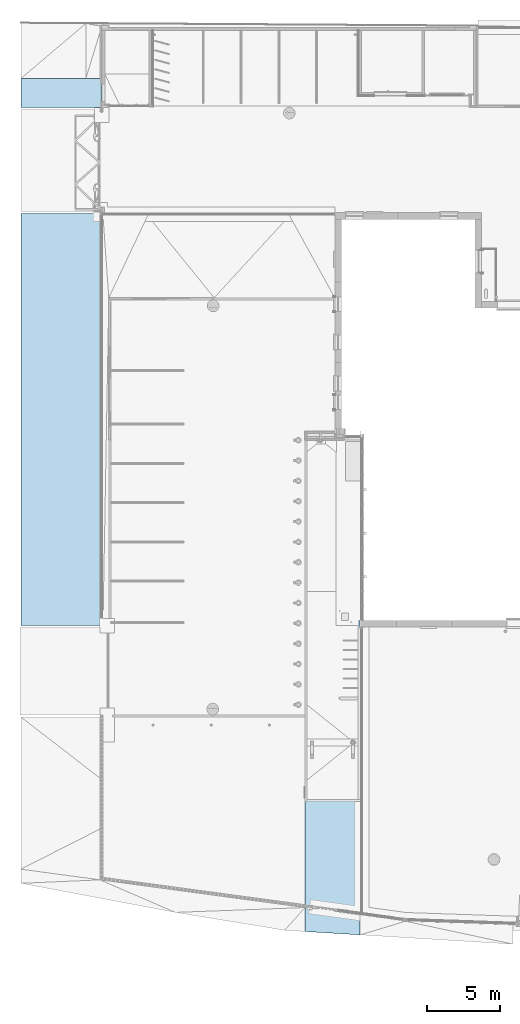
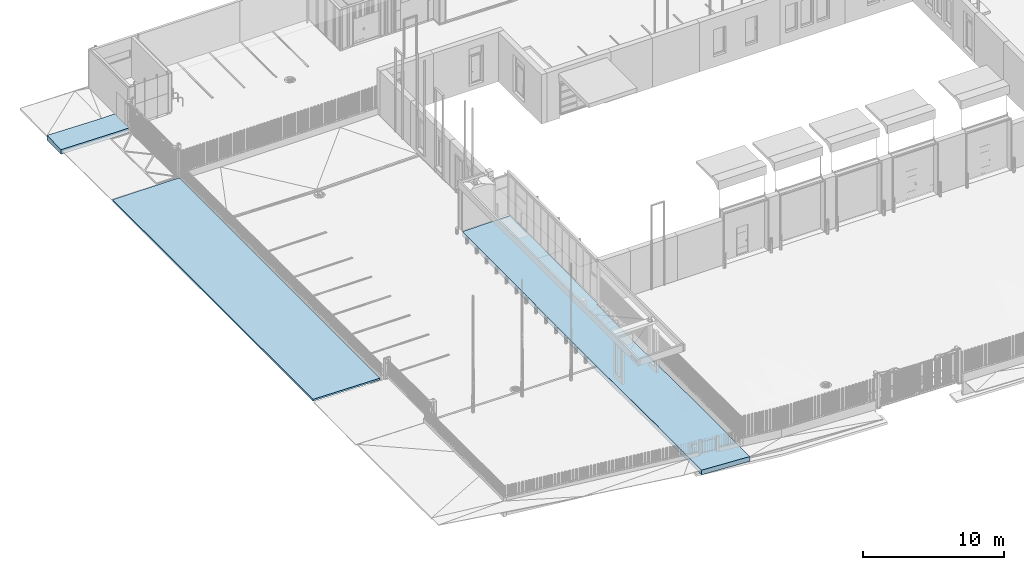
# One storey, part 56 of 77: 3 slabs.
"""IFC2X3 building model written with IfcOpenShell, lengths in millimetres."""

from ifc_helpers import new_model, entity, si_unit, converted_unit, derived_unit, direction, origin, place, context, subcontext, project, spatial, faceted_brep, material, material_list, element, save


model = new_model("IFC2X3")

# Units and contexts
model_context = context("Model", 3, precision=0.01, world=origin(), true_north=direction((6.12303176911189e-17, 1.0)))
body_context = subcontext(model_context, "Body", "Model", "MODEL_VIEW")
ifc_project = project(units=[si_unit("LENGTHUNIT", "METRE", prefix="MILLI"), si_unit("AREAUNIT", "SQUARE_METRE"), si_unit("VOLUMEUNIT", "CUBIC_METRE"), converted_unit("PLANEANGLEUNIT", "DEGREE", entity("IfcRatioMeasure", 0.0174532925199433), si_unit("PLANEANGLEUNIT", "RADIAN"), dimensions=[0, 0, 0, 0, 0, 0, 0]), si_unit("MASSUNIT", "GRAM", prefix="KILO"), derived_unit("MASSDENSITYUNIT", [(si_unit("MASSUNIT", "GRAM", prefix="KILO"), 1), (si_unit("LENGTHUNIT", "METRE"), -3)]), si_unit("TIMEUNIT", "SECOND"), si_unit("FREQUENCYUNIT", "HERTZ"), si_unit("THERMODYNAMICTEMPERATUREUNIT", "DEGREE_CELSIUS"), derived_unit("THERMALTRANSMITTANCEUNIT", [(si_unit("MASSUNIT", "GRAM", prefix="KILO"), 1), (si_unit("THERMODYNAMICTEMPERATUREUNIT", "KELVIN"), -1), (si_unit("TIMEUNIT", "SECOND"), -3)]), derived_unit("VOLUMETRICFLOWRATEUNIT", [(si_unit("LENGTHUNIT", "METRE"), 3), (si_unit("TIMEUNIT", "SECOND"), -1)]), si_unit("ELECTRICCURRENTUNIT", "AMPERE"), si_unit("ELECTRICVOLTAGEUNIT", "VOLT"), si_unit("POWERUNIT", "WATT"), si_unit("FORCEUNIT", "NEWTON", prefix="KILO"), si_unit("ILLUMINANCEUNIT", "LUX"), si_unit("LUMINOUSFLUXUNIT", "LUMEN"), si_unit("LUMINOUSINTENSITYUNIT", "CANDELA"), derived_unit("USERDEFINED", [(si_unit("MASSUNIT", "GRAM", prefix="KILO"), -1), (si_unit("LENGTHUNIT", "METRE"), -2), (si_unit("TIMEUNIT", "SECOND"), 3), (si_unit("LUMINOUSFLUXUNIT", "LUMEN"), 1)]), derived_unit("LINEARVELOCITYUNIT", [(si_unit("LENGTHUNIT", "METRE"), 1), (si_unit("TIMEUNIT", "SECOND"), -1)]), si_unit("PRESSUREUNIT", "PASCAL"), derived_unit("USERDEFINED", [(si_unit("LENGTHUNIT", "METRE"), -2), (si_unit("MASSUNIT", "GRAM", prefix="KILO"), 1), (si_unit("TIMEUNIT", "SECOND"), -2)])], contexts=[model_context])

# Site, building, storey
site_placement = place(None, origin())
site = spatial("IfcSite", under=ifc_project, at=site_placement, Name="Default", CompositionType="ELEMENT")
building_placement = place(site_placement, origin())
building = spatial("IfcBuilding", under=site, at=building_placement, CompositionType="ELEMENT")
storey_placement = place(building_placement, origin())
storey = spatial("IfcBuildingStorey", under=building, at=storey_placement, Name="1. KORRUS", CompositionType="ELEMENT", Elevation=0.0)

# Slabs
ifc_material_1 = material(Name="Site - betoonkivi")
ifc_material_2 = material(Name="Liiv")
ifc_material_3 = material(Name="killustik")
ifc_material_list = material_list([ifc_material_1, ifc_material_2, ifc_material_3])
slab_1_placement = place(storey_placement, origin())
element("IfcSlab", 1, at=slab_1_placement, inside=storey, material=ifc_material_list, Name="Floor:betoonkivisillutis", ObjectType="Floor:betoonkivisillutis", PredefinedType="FLOOR", context=body_context, shape_type="Brep", body=[
    faceted_brep([(1300.64795164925, -6510.0, -150.0), (1300.64795164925, -9273.881807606, -119.061024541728), (1300.64795164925, -10530.0, -105.0), (1300.64795164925, -14550.0, -60.0), (1300.64795164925, -16785.6836228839, -85.2311340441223), (1300.64795164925, -19021.3672457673, -110.462268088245), (1300.64795164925, -21638.650455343, -140.0), (1300.64795164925, -21638.650455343, -550.0), (1300.64795164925, -19021.3672457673, -520.462268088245), (1300.64795164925, -16785.6836228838, -495.231134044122), (1300.64795164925, -14550.0, -470.0), (1300.64795164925, -10530.0, -515.0), (1300.64795164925, -9273.881807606, -529.061024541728), (1300.64795164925, -6510.0, -560.0), (1300.64795164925, 0.0, -510.0), (1300.64795164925, 0.0, -100.0), (-2500.0, -21407.0704184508, -125.0), (-2500.0, -20141.1809688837, -118.538621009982), (-2500.0, -17978.5352092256, -107.5), (-2500.0, -14550.0, -90.0), (-2500.0, -12037.7635354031, -114.997377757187), (-2500.0, -9273.8817677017, -142.498688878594), (-2500.0, -6510.0, -170.0), (-2500.0, 12400.0, -40.0), (-2500.0, 12400.0, -450.0), (-2500.0, -6510.0, -580.0), (-2500.0, -9273.8817677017, -552.498688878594), (-2500.0, -12037.7635354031, -524.997377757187), (-2500.0, -14550.0, -500.0), (-2500.0, -17978.5352092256, -517.5), (-2500.0, -20141.1809688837, -528.538621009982), (-2500.0, -21407.0704184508, -535.0), (0.0, 12400.0, -435.0), (0.0, 12400.0, -25.0), (1400.64795164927, 12400.0, -20.0), (1400.64795164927, 12400.0, -430.0), (-1225.25885063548, -21484.7425959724, -130.031015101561), (-1225.25885063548, -21484.7425959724, -540.031015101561), (1400.64795164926, 9544.62019029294, -430.0), (1400.64795164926, 9544.62019029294, -20.0), (1400.64795164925, 0.0, -100.0), (1400.64795164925, 0.0, -510.0), (-726.359413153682, -19704.5626883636, -117.442882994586), (-451.025542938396, -17853.03164352, -101.861600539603), (-1225.25871624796, -14550.0, -79.9379687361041), (-148.237119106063, -14550.0, -71.436616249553), (-451.025542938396, -17853.03164352, -511.861600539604), (-726.359413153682, -19704.5626883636, -527.442882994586), (-1225.25871624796, -14550.0, -489.937968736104), (-148.236990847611, -14550.0, -481.436615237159), (-795.53052717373, -8513.15770847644, -139.981366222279), (-780.071115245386, -10655.8231091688, -117.363816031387), (-148.23685900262, -6510.0, -157.624409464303), (-780.071115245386, -10655.8231091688, -527.363816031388), (-795.53052717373, -8513.15770847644, -549.981366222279), (-148.23685900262, -6510.0, -567.624409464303), (-1.06704095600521, 9544.62019029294, -25.0), (-1.06704095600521, 9544.62019029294, -435.0)], [[[0, 1, 2, 3, 4, 5, 6, 7, 8, 9, 10, 11, 12, 13, 14, 15]], [[16, 17, 18, 19, 20, 21, 22, 23, 24, 25, 26, 27, 28, 29, 30, 31]], [[32, 24, 23, 33, 34, 35]], [[6, 36, 16, 31, 37, 7]], [[38, 35, 34, 39, 40, 41]], [[14, 41, 40, 15]], [[18, 42, 43]], [[43, 44, 18]], [[17, 36, 42]], [[43, 5, 4]], [[6, 42, 36]], [[19, 18, 44]], [[4, 3, 45, 44]], [[44, 43, 4]], [[17, 42, 18]], [[36, 17, 16]], [[6, 5, 42]], [[5, 43, 42]], [[23, 22, 15]], [[46, 47, 29]], [[29, 48, 46]], [[47, 37, 30]], [[9, 8, 46]], [[37, 47, 7]], [[48, 29, 28]], [[9, 48, 49, 10]], [[9, 46, 48]], [[29, 47, 30]], [[31, 30, 37]], [[47, 8, 7]], [[47, 46, 8]], [[14, 25, 24]], [[1, 50, 51]], [[2, 45, 3]], [[20, 19, 44, 45]], [[1, 52, 50]], [[21, 51, 50]], [[51, 45, 2]], [[20, 51, 21]], [[45, 51, 20]], [[2, 1, 51]], [[52, 1, 0]], [[22, 21, 50]], [[22, 50, 52]], [[53, 54, 12]], [[10, 49, 11]], [[27, 49, 48, 28]], [[54, 55, 12]], [[54, 53, 26]], [[11, 49, 53]], [[26, 53, 27]], [[27, 53, 49]], [[53, 12, 11]], [[13, 12, 55]], [[54, 26, 25]], [[55, 54, 25]], [[15, 40, 39]], [[23, 15, 56]], [[38, 41, 14]], [[57, 14, 24]], [[34, 33, 39]], [[38, 32, 35]], [[15, 22, 52, 0]], [[14, 13, 55, 25]], [[23, 56, 33]], [[33, 56, 39]], [[32, 57, 24]], [[38, 57, 32]], [[15, 39, 56]], [[57, 38, 14]]]),
])
slab_2_placement = place(storey_placement, origin())
element("IfcSlab", 2, at=slab_2_placement, inside=storey, Name="Floor:betoonkivisillutis", ObjectType="Floor:betoonkivisillutis", PredefinedType="FLOOR", context=body_context, shape_type="Brep", body=[
    faceted_brep([(-16475.2351867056, 35300.0, -80.0), (-16475.2351867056, 35300.0, -490.0), (-16475.2351867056, 36046.5746643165, -490.0), (-16475.2351867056, 37300.0, -490.0), (-16475.2351867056, 37300.0, -80.0), (-16475.2351867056, 36046.5746643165, -80.0), (-17589.9580254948, 35300.0, -85.0), (-19051.8679417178, 35300.0, -63.6099607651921), (-20542.1371597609, 35300.0, -41.8049803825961), (-22032.4063778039, 35300.0, -20.0), (-22032.4063778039, 35300.0, -430.0), (-20542.1371597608, 35300.0, -451.804980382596), (-19051.8679417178, 35300.0, -473.609960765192), (-17589.9580254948, 35300.0, -495.0), (-17263.7698786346, 35300.0, -493.536909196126), (-16937.5817317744, 35300.0, -492.073818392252), (-16937.5817317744, 35300.0, -82.0738183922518), (-17263.7698786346, 35300.0, -83.5369091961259), (-22032.4063778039, 36507.6605054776, -7.92339494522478), (-22032.4063778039, 37300.0, 0.0), (-22032.4063778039, 37300.0, -410.0), (-22032.4063778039, 36507.6605054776, -417.923394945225), (-17589.9580254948, 37300.0, -90.0), (-17032.5966061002, 37300.0, -85.0), (-16706.4084616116, 37300.0, -82.0738184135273), (-16706.4084616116, 37300.0, -492.073818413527), (-17032.5966061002, 37300.0, -495.0), (-17589.9580254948, 37300.0, -500.0), (-19811.1822016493, 37300.0, -455.0), (-20542.137141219, 37300.0, -440.191511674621), (-20542.137141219, 37300.0, -30.1915116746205), (-19811.1822016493, 37300.0, -45.0), (-19797.0022934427, 36208.8801925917, -49.3354369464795), (-17589.9580254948, 36507.6604014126, -88.0191510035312), (-20951.8800743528, 36175.6195360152, -29.7157884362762), (-17589.9580254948, 36046.5746560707, -86.8664366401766), (-17589.9580254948, 36507.6604014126, -498.019151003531), (-19797.0022934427, 36208.8801925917, -459.33543694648), (-20951.8800743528, 36175.6195360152, -439.715788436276), (-17589.9580254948, 36046.5746560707, -496.866436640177), (-16786.5618645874, 36190.998226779, -82.0185395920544), (-17100.6758422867, 36242.7282296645, -84.1277118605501), (-17100.6758422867, 36242.7282296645, -494.12771186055), (-16786.5618645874, 36190.998226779, -492.018539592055)], [[[0, 1, 2, 3, 4, 5]], [[6, 7, 8, 9, 10, 11, 12, 13, 14, 15, 1, 0, 16, 17]], [[9, 18, 19, 20, 21, 10]], [[22, 23, 24, 4, 3, 25, 26, 27, 28, 29, 20, 19, 30, 31]], [[32, 33, 31]], [[9, 8, 34]], [[7, 6, 35, 33]], [[22, 31, 33]], [[8, 32, 34]], [[30, 18, 34]], [[7, 32, 8]], [[33, 32, 7]], [[31, 30, 32]], [[18, 30, 19]], [[30, 34, 32]], [[9, 34, 18]], [[28, 36, 37]], [[38, 11, 10]], [[12, 36, 39, 13]], [[36, 28, 27]], [[38, 37, 11]], [[38, 21, 29]], [[11, 37, 12]], [[12, 37, 36]], [[37, 29, 28]], [[20, 29, 21]], [[37, 38, 29]], [[21, 38, 10]], [[35, 6, 17]], [[16, 40, 41]], [[0, 5, 40]], [[41, 17, 16]], [[41, 22, 33, 35]], [[23, 41, 40]], [[35, 17, 41]], [[5, 4, 24]], [[41, 23, 22]], [[16, 0, 40]], [[5, 24, 40]], [[23, 40, 24]], [[14, 13, 39]], [[42, 43, 15]], [[43, 2, 1]], [[15, 14, 42]], [[42, 39, 36, 27]], [[43, 42, 26]], [[42, 14, 39]], [[25, 3, 2]], [[27, 26, 42]], [[43, 1, 15]], [[43, 25, 2]], [[25, 43, 26]]]),
])
slab_3_placement = place(storey_placement, origin())
element("IfcSlab", 3, at=slab_3_placement, inside=storey, Name="Floor:Muru", ObjectType="Floor:Muru", PredefinedType="FLOOR", context=body_context, shape_type="Brep", body=[
    faceted_brep([(-16600.0, -350.0, -20.0), (-16600.0, -350.0, -170.0), (-16600.0, 12080.3473886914, -126.153977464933), (-16600.0, 21784.8263056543, -91.9230112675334), (-16600.0, 28000.0, -70.0), (-16600.0, 28000.0, 80.0), (-16600.0, 21784.8263056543, 58.0769887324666), (-16600.0, 12080.3473886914, 23.8460225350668), (-18989.6083640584, -350.0, 15.0768200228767), (-20519.8041820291, -350.0, 37.5384100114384), (-22050.0, -350.0, 60.0), (-22050.0, -350.0, -90.0), (-20519.8041820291, -350.0, -112.461589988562), (-18989.6083640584, -350.0, -134.923179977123), (-22050.0, 7609.82595220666, 71.2307949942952), (-22050.0, 15569.6519044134, 82.4615899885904), (-22050.0, 28000.0, 100.0), (-22050.0, 28000.0, -50.0), (-22050.0, 15569.6519044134, -67.5384100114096), (-22050.0, 7609.82595220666, -78.7692050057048), (-18989.6082915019, 28000.0, -61.2307952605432), (-20855.1958542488, 28000.0, -54.3846023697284), (-20855.1958542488, 28000.0, 95.6153976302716), (-18989.6082915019, 28000.0, 88.7692047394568), (-18559.9019587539, 16932.587484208, 56.5771059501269), (-18184.9131316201, 7894.45718117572, 27.2715385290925), (-20358.3316978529, 8449.77914979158, 53.3648955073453), (-20325.2866127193, 17660.1941189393, 72.1568061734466), (-18184.9131316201, 7894.45718117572, -122.728461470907), (-18559.9019587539, 16932.587484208, -93.4228940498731), (-20358.3316978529, 8449.77914979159, -96.6351044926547), (-20325.2866127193, 17660.1941189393, -77.8431938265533)], [[[0, 1, 2, 3, 4, 5, 6, 7]], [[0, 8, 9, 10, 11, 12, 13, 1]], [[10, 14, 15, 16, 17, 18, 19, 11]], [[5, 4, 20, 21, 17, 16, 22, 23]], [[7, 24, 25]], [[0, 7, 25]], [[24, 6, 23]], [[14, 9, 26]], [[6, 24, 7]], [[27, 15, 26]], [[24, 27, 26]], [[6, 5, 23]], [[25, 26, 8]], [[15, 22, 16]], [[23, 22, 27]], [[0, 25, 8]], [[24, 26, 25]], [[26, 15, 14]], [[23, 27, 24]], [[22, 15, 27]], [[9, 14, 10]], [[9, 8, 26]], [[28, 29, 2]], [[28, 2, 1]], [[20, 3, 29]], [[30, 12, 19]], [[2, 29, 3]], [[30, 18, 31]], [[30, 31, 29]], [[20, 4, 3]], [[13, 30, 28]], [[17, 21, 18]], [[31, 21, 20]], [[13, 28, 1]], [[28, 30, 29]], [[19, 18, 30]], [[29, 31, 20]], [[31, 18, 21]], [[11, 19, 12]], [[30, 13, 12]]]),
])

save(model, "model.ifc")
